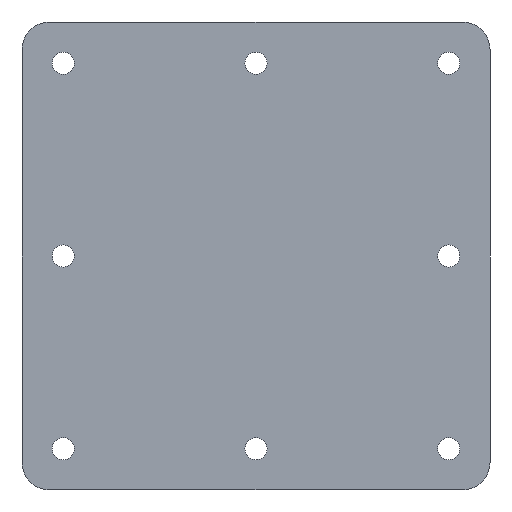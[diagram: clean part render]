
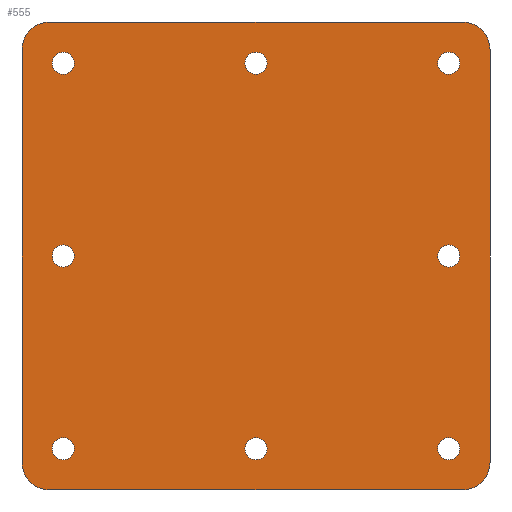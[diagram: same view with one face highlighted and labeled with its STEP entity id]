
A CAD part, front view. The second image highlights one B-rep face of the part: STEP entity #555.
In plain terms, the highlighted planar face has unit normal (0, -1, 0).
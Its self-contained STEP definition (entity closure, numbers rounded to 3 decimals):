
#25=FACE_BOUND('',#111,.T.);
#26=FACE_BOUND('',#112,.T.);
#27=FACE_BOUND('',#113,.T.);
#28=FACE_BOUND('',#114,.T.);
#29=FACE_BOUND('',#115,.T.);
#30=FACE_BOUND('',#116,.T.);
#31=FACE_BOUND('',#117,.T.);
#32=FACE_BOUND('',#118,.T.);
#43=PLANE('',#631);
#71=FACE_OUTER_BOUND('',#110,.T.);
#110=EDGE_LOOP('',(#491,#492,#493,#494,#495,#496,#497,#498));
#111=EDGE_LOOP('',(#499));
#112=EDGE_LOOP('',(#500));
#113=EDGE_LOOP('',(#501));
#114=EDGE_LOOP('',(#502));
#115=EDGE_LOOP('',(#503));
#116=EDGE_LOOP('',(#504));
#117=EDGE_LOOP('',(#505));
#118=EDGE_LOOP('',(#506));
#125=LINE('',#819,#166);
#135=LINE('',#871,#176);
#138=LINE('',#879,#179);
#148=LINE('',#917,#189);
#166=VECTOR('',#649,10.);
#176=VECTOR('',#697,10.);
#179=VECTOR('',#706,10.);
#189=VECTOR('',#754,10.);
#204=CIRCLE('',#574,10.);
#220=CIRCLE('',#593,10.);
#221=CIRCLE('',#596,10.);
#222=CIRCLE('',#599,10.);
#223=CIRCLE('',#601,4.);
#224=CIRCLE('',#603,4.);
#225=CIRCLE('',#605,4.);
#226=CIRCLE('',#607,4.);
#227=CIRCLE('',#609,4.);
#228=CIRCLE('',#611,4.);
#229=CIRCLE('',#613,4.);
#230=CIRCLE('',#615,4.);
#239=VERTEX_POINT('',#809);
#240=VERTEX_POINT('',#811);
#242=VERTEX_POINT('',#817);
#264=VERTEX_POINT('',#865);
#265=VERTEX_POINT('',#869);
#266=VERTEX_POINT('',#873);
#267=VERTEX_POINT('',#877);
#268=VERTEX_POINT('',#881);
#269=VERTEX_POINT('',#885);
#270=VERTEX_POINT('',#889);
#271=VERTEX_POINT('',#893);
#272=VERTEX_POINT('',#897);
#273=VERTEX_POINT('',#901);
#274=VERTEX_POINT('',#905);
#275=VERTEX_POINT('',#909);
#276=VERTEX_POINT('',#913);
#289=EDGE_CURVE('',#239,#240,#204,.T.);
#293=EDGE_CURVE('',#239,#242,#125,.T.);
#317=EDGE_CURVE('',#264,#242,#220,.T.);
#319=EDGE_CURVE('',#264,#265,#135,.T.);
#321=EDGE_CURVE('',#266,#265,#221,.T.);
#323=EDGE_CURVE('',#266,#267,#138,.T.);
#325=EDGE_CURVE('',#268,#267,#222,.T.);
#327=EDGE_CURVE('',#269,#269,#223,.T.);
#329=EDGE_CURVE('',#270,#270,#224,.T.);
#331=EDGE_CURVE('',#271,#271,#225,.T.);
#333=EDGE_CURVE('',#272,#272,#226,.T.);
#335=EDGE_CURVE('',#273,#273,#227,.T.);
#337=EDGE_CURVE('',#274,#274,#228,.T.);
#339=EDGE_CURVE('',#275,#275,#229,.T.);
#341=EDGE_CURVE('',#276,#276,#230,.T.);
#342=EDGE_CURVE('',#268,#240,#148,.T.);
#491=ORIENTED_EDGE('',*,*,#289,.F.);
#492=ORIENTED_EDGE('',*,*,#293,.T.);
#493=ORIENTED_EDGE('',*,*,#317,.F.);
#494=ORIENTED_EDGE('',*,*,#319,.T.);
#495=ORIENTED_EDGE('',*,*,#321,.F.);
#496=ORIENTED_EDGE('',*,*,#323,.T.);
#497=ORIENTED_EDGE('',*,*,#325,.F.);
#498=ORIENTED_EDGE('',*,*,#342,.T.);
#499=ORIENTED_EDGE('',*,*,#327,.T.);
#500=ORIENTED_EDGE('',*,*,#329,.T.);
#501=ORIENTED_EDGE('',*,*,#331,.T.);
#502=ORIENTED_EDGE('',*,*,#333,.T.);
#503=ORIENTED_EDGE('',*,*,#335,.T.);
#504=ORIENTED_EDGE('',*,*,#337,.T.);
#505=ORIENTED_EDGE('',*,*,#339,.T.);
#506=ORIENTED_EDGE('',*,*,#341,.T.);
#555=ADVANCED_FACE('',(#71,#25,#26,#27,#28,#29,#30,#31,#32),#43,.T.);
#574=AXIS2_PLACEMENT_3D('',#812,#642,#643);
#593=AXIS2_PLACEMENT_3D('',#867,#692,#693);
#596=AXIS2_PLACEMENT_3D('',#875,#701,#702);
#599=AXIS2_PLACEMENT_3D('',#883,#710,#711);
#601=AXIS2_PLACEMENT_3D('',#887,#715,#716);
#603=AXIS2_PLACEMENT_3D('',#891,#720,#721);
#605=AXIS2_PLACEMENT_3D('',#895,#725,#726);
#607=AXIS2_PLACEMENT_3D('',#899,#730,#731);
#609=AXIS2_PLACEMENT_3D('',#903,#735,#736);
#611=AXIS2_PLACEMENT_3D('',#907,#740,#741);
#613=AXIS2_PLACEMENT_3D('',#911,#745,#746);
#615=AXIS2_PLACEMENT_3D('',#915,#750,#751);
#631=AXIS2_PLACEMENT_3D('',#953,#795,#796);
#642=DIRECTION('center_axis',(0.,1.,0.));
#643=DIRECTION('ref_axis',(-0.707,0.,-0.707));
#649=DIRECTION('',(1.,0.,0.));
#692=DIRECTION('center_axis',(0.,1.,0.));
#693=DIRECTION('ref_axis',(0.707,0.,-0.707));
#697=DIRECTION('',(0.,0.,1.));
#701=DIRECTION('center_axis',(0.,1.,0.));
#702=DIRECTION('ref_axis',(0.707,0.,0.707));
#706=DIRECTION('',(-1.,0.,0.));
#710=DIRECTION('center_axis',(0.,1.,0.));
#711=DIRECTION('ref_axis',(-0.707,0.,0.707));
#715=DIRECTION('center_axis',(0.,1.,0.));
#716=DIRECTION('ref_axis',(0.866,0.,-0.5));
#720=DIRECTION('center_axis',(0.,1.,0.));
#721=DIRECTION('ref_axis',(0.866,0.,-0.5));
#725=DIRECTION('center_axis',(0.,1.,0.));
#726=DIRECTION('ref_axis',(0.866,0.,-0.5));
#730=DIRECTION('center_axis',(0.,1.,0.));
#731=DIRECTION('ref_axis',(0.866,0.,-0.5));
#735=DIRECTION('center_axis',(0.,1.,0.));
#736=DIRECTION('ref_axis',(0.866,0.,-0.5));
#740=DIRECTION('center_axis',(0.,1.,0.));
#741=DIRECTION('ref_axis',(0.866,0.,-0.5));
#745=DIRECTION('center_axis',(0.,1.,0.));
#746=DIRECTION('ref_axis',(0.866,0.,-0.5));
#750=DIRECTION('center_axis',(0.,1.,0.));
#751=DIRECTION('ref_axis',(0.866,0.,-0.5));
#754=DIRECTION('',(0.,0.,-1.));
#795=DIRECTION('center_axis',(0.,-1.,0.));
#796=DIRECTION('ref_axis',(-0.5,0.,-0.866));
#809=CARTESIAN_POINT('',(50.809,10.03,-85.));
#811=CARTESIAN_POINT('',(40.809,10.03,-75.));
#812=CARTESIAN_POINT('Origin',(50.809,10.03,-75.));
#817=CARTESIAN_POINT('',(200.809,10.03,-85.));
#819=CARTESIAN_POINT('',(40.809,10.03,-85.));
#865=CARTESIAN_POINT('',(210.809,10.03,-75.));
#867=CARTESIAN_POINT('Origin',(200.809,10.03,-75.));
#869=CARTESIAN_POINT('',(210.809,10.03,75.));
#871=CARTESIAN_POINT('',(210.809,10.03,-85.));
#873=CARTESIAN_POINT('',(200.809,10.03,85.));
#875=CARTESIAN_POINT('Origin',(200.809,10.03,75.));
#877=CARTESIAN_POINT('',(50.809,10.03,85.));
#879=CARTESIAN_POINT('',(210.809,10.03,85.));
#881=CARTESIAN_POINT('',(40.809,10.03,75.));
#883=CARTESIAN_POINT('Origin',(50.809,10.03,75.));
#885=CARTESIAN_POINT('',(122.345,10.03,72.));
#887=CARTESIAN_POINT('Origin',(125.809,10.03,70.));
#889=CARTESIAN_POINT('',(52.345,10.03,72.));
#891=CARTESIAN_POINT('Origin',(55.809,10.03,70.));
#893=CARTESIAN_POINT('',(192.345,10.03,72.));
#895=CARTESIAN_POINT('Origin',(195.809,10.03,70.));
#897=CARTESIAN_POINT('',(122.345,10.03,-68.));
#899=CARTESIAN_POINT('Origin',(125.809,10.03,-70.));
#901=CARTESIAN_POINT('',(52.345,10.03,-68.));
#903=CARTESIAN_POINT('Origin',(55.809,10.03,-70.));
#905=CARTESIAN_POINT('',(52.345,10.03,2.));
#907=CARTESIAN_POINT('Origin',(55.809,10.03,0.));
#909=CARTESIAN_POINT('',(192.345,10.03,-68.));
#911=CARTESIAN_POINT('Origin',(195.809,10.03,-70.));
#913=CARTESIAN_POINT('',(192.345,10.03,2.));
#915=CARTESIAN_POINT('Origin',(195.809,10.03,0.));
#917=CARTESIAN_POINT('',(40.809,10.03,85.));
#953=CARTESIAN_POINT('Origin',(125.809,10.03,0.));
